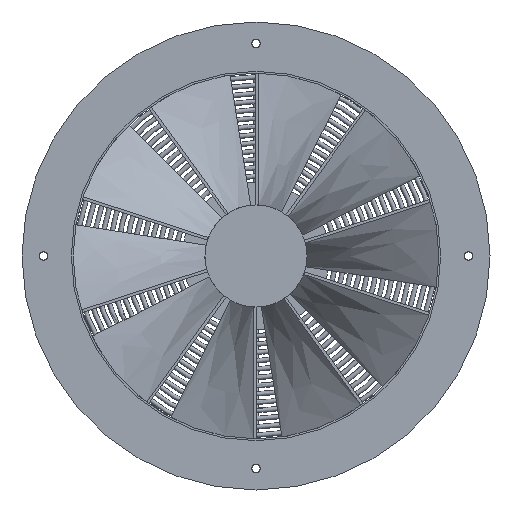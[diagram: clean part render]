
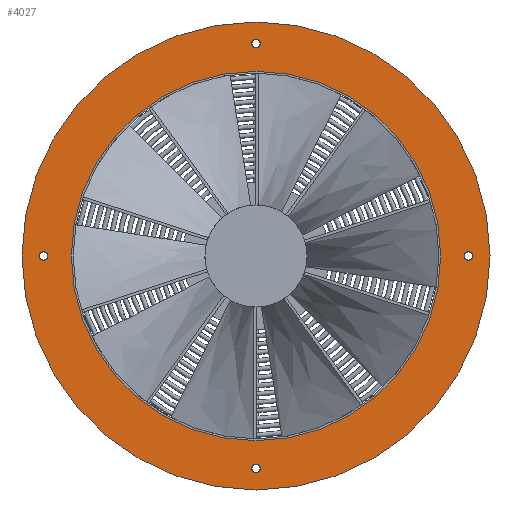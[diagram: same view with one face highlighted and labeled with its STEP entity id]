
A CAD part, left-side view. The second image highlights one B-rep face of the part: STEP entity #4027.
In plain terms, the highlighted planar face has unit normal (-1, 0, 0).
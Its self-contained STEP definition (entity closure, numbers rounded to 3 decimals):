
#280=PLANE('',#4428);
#959=FACE_BOUND('',#1370,.T.);
#960=FACE_BOUND('',#1371,.T.);
#961=FACE_BOUND('',#1372,.T.);
#962=FACE_BOUND('',#1373,.T.);
#963=FACE_BOUND('',#1374,.T.);
#1128=FACE_OUTER_BOUND('',#1369,.T.);
#1369=EDGE_LOOP('',(#3648));
#1370=EDGE_LOOP('',(#3649));
#1371=EDGE_LOOP('',(#3650));
#1372=EDGE_LOOP('',(#3651));
#1373=EDGE_LOOP('',(#3652));
#1374=EDGE_LOOP('',(#3653));
#1395=CIRCLE('',#4045,4.5);
#1397=CIRCLE('',#4048,4.5);
#1399=CIRCLE('',#4051,4.5);
#1401=CIRCLE('',#4054,4.5);
#1510=CIRCLE('',#4429,256.);
#1511=CIRCLE('',#4430,202.);
#1518=VERTEX_POINT('',#5485);
#1520=VERTEX_POINT('',#5490);
#1522=VERTEX_POINT('',#5495);
#1524=VERTEX_POINT('',#5500);
#1899=VERTEX_POINT('',#7526);
#1900=VERTEX_POINT('',#7528);
#1905=EDGE_CURVE('',#1518,#1518,#1395,.T.);
#1907=EDGE_CURVE('',#1520,#1520,#1397,.T.);
#1909=EDGE_CURVE('',#1522,#1522,#1399,.T.);
#1911=EDGE_CURVE('',#1524,#1524,#1401,.T.);
#2480=EDGE_CURVE('',#1899,#1899,#1510,.T.);
#2481=EDGE_CURVE('',#1900,#1900,#1511,.T.);
#3648=ORIENTED_EDGE('',*,*,#2480,.F.);
#3649=ORIENTED_EDGE('',*,*,#1905,.T.);
#3650=ORIENTED_EDGE('',*,*,#1907,.T.);
#3651=ORIENTED_EDGE('',*,*,#1909,.T.);
#3652=ORIENTED_EDGE('',*,*,#1911,.T.);
#3653=ORIENTED_EDGE('',*,*,#2481,.T.);
#4027=ADVANCED_FACE('',(#1128,#959,#960,#961,#962,#963),#280,.T.);
#4045=AXIS2_PLACEMENT_3D('',#5486,#4447,#4448);
#4048=AXIS2_PLACEMENT_3D('',#5491,#4453,#4454);
#4051=AXIS2_PLACEMENT_3D('',#5496,#4459,#4460);
#4054=AXIS2_PLACEMENT_3D('',#5501,#4465,#4466);
#4428=AXIS2_PLACEMENT_3D('',#7525,#5453,#5454);
#4429=AXIS2_PLACEMENT_3D('',#7527,#5455,#5456);
#4430=AXIS2_PLACEMENT_3D('',#7529,#5457,#5458);
#4447=DIRECTION('center_axis',(1.,0.,0.));
#4448=DIRECTION('ref_axis',(0.,1.,0.));
#4453=DIRECTION('center_axis',(1.,0.,0.));
#4454=DIRECTION('ref_axis',(0.,0.,-1.));
#4459=DIRECTION('center_axis',(1.,0.,0.));
#4460=DIRECTION('ref_axis',(0.,-1.,0.));
#4465=DIRECTION('center_axis',(1.,0.,0.));
#4466=DIRECTION('ref_axis',(0.,0.,1.));
#5453=DIRECTION('center_axis',(-1.,0.,0.));
#5454=DIRECTION('ref_axis',(0.,0.,1.));
#5455=DIRECTION('center_axis',(1.,0.,0.));
#5456=DIRECTION('ref_axis',(0.,0.,-1.));
#5457=DIRECTION('center_axis',(1.,0.,0.));
#5458=DIRECTION('ref_axis',(0.,0.,-1.));
#5485=CARTESIAN_POINT('',(70.,-237.,0.));
#5486=CARTESIAN_POINT('Origin',(70.,-232.5,0.));
#5490=CARTESIAN_POINT('',(70.,0.,237.));
#5491=CARTESIAN_POINT('Origin',(70.,0.,232.5));
#5495=CARTESIAN_POINT('',(70.,237.,0.));
#5496=CARTESIAN_POINT('Origin',(70.,232.5,0.));
#5500=CARTESIAN_POINT('',(70.,0.,-237.));
#5501=CARTESIAN_POINT('Origin',(70.,0.,-232.5));
#7525=CARTESIAN_POINT('Origin',(70.,256.,0.));
#7526=CARTESIAN_POINT('',(70.,256.,0.));
#7527=CARTESIAN_POINT('Origin',(70.,0.,0.));
#7528=CARTESIAN_POINT('',(70.,202.,0.));
#7529=CARTESIAN_POINT('Origin',(70.,0.,0.));
